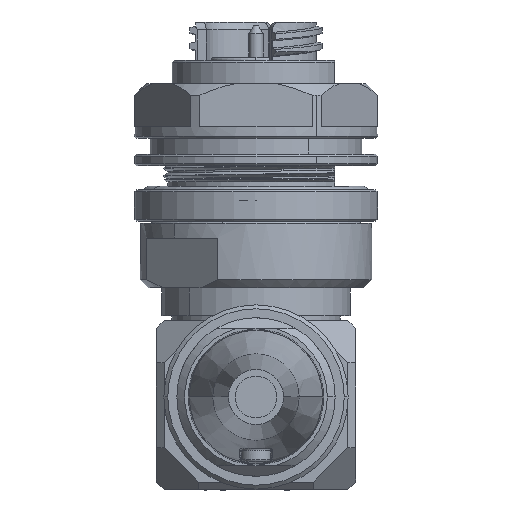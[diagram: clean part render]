
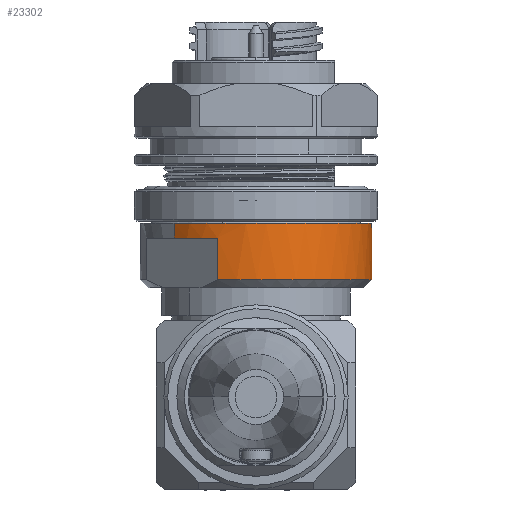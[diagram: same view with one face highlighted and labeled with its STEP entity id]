
A CAD part, front view. The second image highlights one B-rep face of the part: STEP entity #23302.
In plain terms, the highlighted cylindrical face has radius 14.783 mm (diameter 29.566 mm), a partial arc.
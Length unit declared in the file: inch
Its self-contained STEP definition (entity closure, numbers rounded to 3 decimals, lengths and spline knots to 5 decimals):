
#619 = ORIENTED_EDGE ( 'NONE', *, *, #15814, .F. ) ;
#709 = EDGE_CURVE ( 'NONE', #11849, #16023, #13440, .T. ) ;
#1562 = VECTOR ( 'NONE', #10057, 39.37008 ) ;
#1751 = ORIENTED_EDGE ( 'NONE', *, *, #9375, .F. ) ;
#1778 = DIRECTION ( 'NONE',  ( 0., 0., -1. ) ) ;
#2043 = CYLINDRICAL_SURFACE ( 'NONE', #20765, 0.582 ) ;
#2182 = CARTESIAN_POINT ( 'NONE',  ( -0.41154, -0.41154, -1.01 ) ) ;
#2990 = VECTOR ( 'NONE', #14862, 39.37008 ) ;
#3328 = CARTESIAN_POINT ( 'NONE',  ( -0.19361, -0.54885, -1.01 ) ) ;
#3468 = VERTEX_POINT ( 'NONE', #12299 ) ;
#3844 = DIRECTION ( 'NONE',  ( 0.707, 0.707, 0. ) ) ;
#3850 = VERTEX_POINT ( 'NONE', #23914 ) ;
#4379 = CIRCLE ( 'NONE', #21965, 0.582 ) ;
#4661 = CARTESIAN_POINT ( 'NONE',  ( 0.54885, 0.19361, -1.01 ) ) ;
#4817 = ORIENTED_EDGE ( 'NONE', *, *, #709, .F. ) ;
#5402 = CIRCLE ( 'NONE', #23387, 0.582 ) ;
#5505 = CARTESIAN_POINT ( 'NONE',  ( 0.41154, 0.41154, -1.01 ) ) ;
#5623 = CARTESIAN_POINT ( 'NONE',  ( 0., 0., -1.085 ) ) ;
#5875 = DIRECTION ( 'NONE',  ( 0., 0., -1. ) ) ;
#5955 = ORIENTED_EDGE ( 'NONE', *, *, #8615, .F. ) ;
#5963 = DIRECTION ( 'NONE',  ( 0.707, 0.707, 0. ) ) ;
#6121 = DIRECTION ( 'NONE',  ( -0.707, -0.707, 0. ) ) ;
#7945 = DIRECTION ( 'NONE',  ( 0., 0., -1. ) ) ;
#8337 = LINE ( 'NONE', #22214, #1562 ) ;
#8382 = ORIENTED_EDGE ( 'NONE', *, *, #22001, .T. ) ;
#8446 = ORIENTED_EDGE ( 'NONE', *, *, #9077, .T. ) ;
#8615 = EDGE_CURVE ( 'NONE', #20526, #10353, #15259, .T. ) ;
#9077 = EDGE_CURVE ( 'NONE', #22457, #17749, #4379, .T. ) ;
#9375 = EDGE_CURVE ( 'NONE', #10353, #3468, #10691, .T. ) ;
#9912 = CARTESIAN_POINT ( 'NONE',  ( 0., 0., -1.01 ) ) ;
#10057 = DIRECTION ( 'NONE',  ( 0., 0., -1. ) ) ;
#10084 = DIRECTION ( 'NONE',  ( 0.707, -0.707, 0. ) ) ;
#10353 = VERTEX_POINT ( 'NONE', #16084 ) ;
#10452 = LINE ( 'NONE', #2182, #18212 ) ;
#10583 = DIRECTION ( 'NONE',  ( 0., 0., -1. ) ) ;
#10691 = LINE ( 'NONE', #4661, #19908 ) ;
#11740 = ORIENTED_EDGE ( 'NONE', *, *, #15473, .T. ) ;
#11849 = VERTEX_POINT ( 'NONE', #23838 ) ;
#12108 = AXIS2_PLACEMENT_3D ( 'NONE', #5623, #5875, #6121 ) ;
#12251 = EDGE_CURVE ( 'NONE', #22457, #20526, #8337, .T. ) ;
#12299 = CARTESIAN_POINT ( 'NONE',  ( 0.54885, 0.19361, -1.295 ) ) ;
#13440 = LINE ( 'NONE', #3328, #2990 ) ;
#13774 = CARTESIAN_POINT ( 'NONE',  ( 0., 0., -1.085 ) ) ;
#13880 = CARTESIAN_POINT ( 'NONE',  ( -0.19361, -0.54885, -1.085 ) ) ;
#14106 = DIRECTION ( 'NONE',  ( 0.707, 0.707, 0. ) ) ;
#14862 = DIRECTION ( 'NONE',  ( 0., 0., 1. ) ) ;
#14909 = CARTESIAN_POINT ( 'NONE',  ( 0.41154, 0.41154, -1.085 ) ) ;
#15259 = CIRCLE ( 'NONE', #17352, 0.582 ) ;
#15473 = EDGE_CURVE ( 'NONE', #11849, #3468, #5402, .T. ) ;
#15781 = EDGE_LOOP ( 'NONE', ( #8446, #8382, #619, #4817, #11740, #1751, #5955, #25521 ) ) ;
#15814 = EDGE_CURVE ( 'NONE', #16023, #3850, #22564, .T. ) ;
#15932 = CARTESIAN_POINT ( 'NONE',  ( 0., 0., -1.01 ) ) ;
#16023 = VERTEX_POINT ( 'NONE', #13880 ) ;
#16084 = CARTESIAN_POINT ( 'NONE',  ( 0.54885, 0.19361, -1.085 ) ) ;
#16548 = DIRECTION ( 'NONE',  ( 0., 0., -1. ) ) ;
#17352 = AXIS2_PLACEMENT_3D ( 'NONE', #13774, #21603, #10084 ) ;
#17749 = VERTEX_POINT ( 'NONE', #24121 ) ;
#18212 = VECTOR ( 'NONE', #10583, 39.37008 ) ;
#19537 = CARTESIAN_POINT ( 'NONE',  ( 0., 0., -1.295 ) ) ;
#19811 = DIRECTION ( 'NONE',  ( 0., 0., 1. ) ) ;
#19908 = VECTOR ( 'NONE', #16548, 39.37008 ) ;
#20526 = VERTEX_POINT ( 'NONE', #14909 ) ;
#20765 = AXIS2_PLACEMENT_3D ( 'NONE', #15932, #1778, #14106 ) ;
#21603 = DIRECTION ( 'NONE',  ( 0., 0., -1. ) ) ;
#21965 = AXIS2_PLACEMENT_3D ( 'NONE', #9912, #7945, #5963 ) ;
#22001 = EDGE_CURVE ( 'NONE', #17749, #3850, #10452, .T. ) ;
#22214 = CARTESIAN_POINT ( 'NONE',  ( 0.41154, 0.41154, -1.01 ) ) ;
#22457 = VERTEX_POINT ( 'NONE', #5505 ) ;
#22564 = CIRCLE ( 'NONE', #12108, 0.582 ) ;
#23302 = ADVANCED_FACE ( 'NONE', ( #25777 ), #2043, .T. ) ;
#23387 = AXIS2_PLACEMENT_3D ( 'NONE', #19537, #19811, #3844 ) ;
#23838 = CARTESIAN_POINT ( 'NONE',  ( -0.19361, -0.54885, -1.295 ) ) ;
#23914 = CARTESIAN_POINT ( 'NONE',  ( -0.41154, -0.41154, -1.085 ) ) ;
#24121 = CARTESIAN_POINT ( 'NONE',  ( -0.41154, -0.41154, -1.01 ) ) ;
#25521 = ORIENTED_EDGE ( 'NONE', *, *, #12251, .F. ) ;
#25777 = FACE_OUTER_BOUND ( 'NONE', #15781, .T. ) ;
